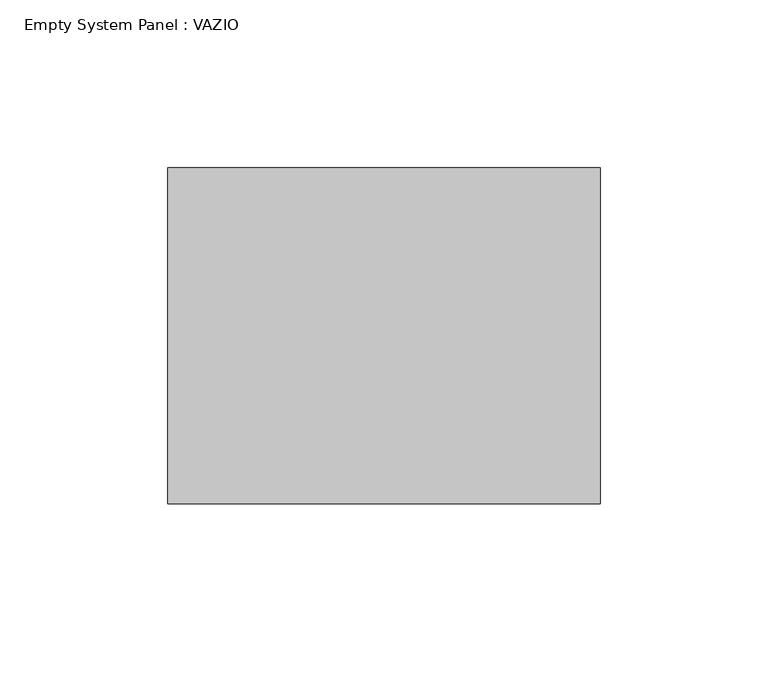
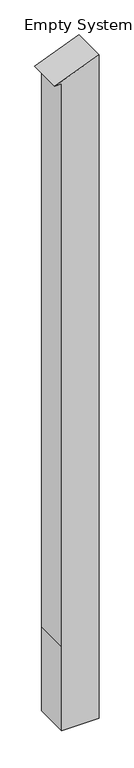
"""IFC4 building model written with IfcOpenShell, lengths in millimetres: plate geometry, Empty System Panel : VAZIO."""

from ifc_helpers import new_model, si_unit, point, frame, frame_2d, origin, place, context, project, spatial, polyline, circle_curve, trimmed, segment, composite_curve, outline, extrude, source, transform, mapped, element, save


def empty_system_panel_vazio_a3524aa6(model_context):
    return source(origin(), model_context, "Body", "SweptSolid", [
        extrude(outline(composite_curve([segment(polyline([(0.0, -44.3902439), (0.0, 64.3902439), (256.7936467, 64.3902439), (2029.2598264, 64.3902439)]), True, "CONTINUOUS"), segment(trimmed(circle_curve(frame_2d((3146.6227404, -449.8069157)), 1229.9994311), [point((2029.2598264, 64.3902439))], [point((1978.5676948, -64.3902439))], True, "CARTESIAN"), True, "CONTINUOUS"), segment(polyline([(1978.5676948, -64.3902439), (1978.5676948, -44.3902439), (256.7936467, -44.3902439), (0.0, -44.3902439)]), True, "CONTINUOUS")], self_intersect=False)), frame((0.0, -50.0, 0.0), z_axis=(0.0, 1.0, 0.0), x_axis=(0.0, 0.0, 1.0)), (0.0, 0.0, 1.0), 100.0),
    ])


if __name__ == "__main__":
    model = new_model("IFC4")
    model_context = context("Model", 3, world=origin())
    ifc_project = project(units=[si_unit("LENGTHUNIT", "METRE", prefix="MILLI")], contexts=[model_context])
    site = spatial("IfcSite", under=ifc_project)
    building = spatial("IfcBuilding", under=site)
    placement = place(None, origin())
    empty_system_panel_vazio_shape = empty_system_panel_vazio_a3524aa6(model_context)
    element("IfcPlate", 1, ObjectType="Empty System Panel : VAZIO", at=placement, inside=building, context=model_context, shape_type="MappedRepresentation", body=[
        mapped(empty_system_panel_vazio_shape, transform((0.0, 0.0, 0.0), x_axis=(1.0, 0.0, 0.0), y_axis=(0.0, 1.0, 0.0), z_axis=(0.0, 0.0, 1.0))),
    ])
    save(model, "model.ifc")
